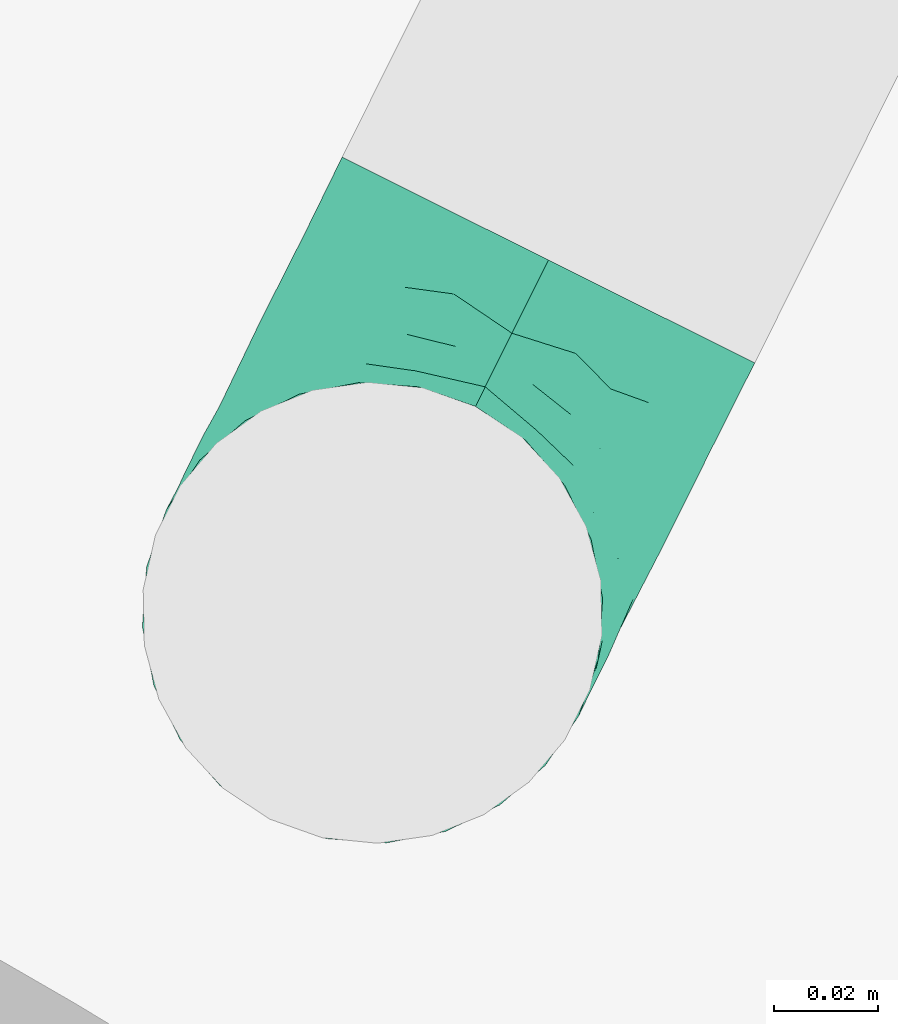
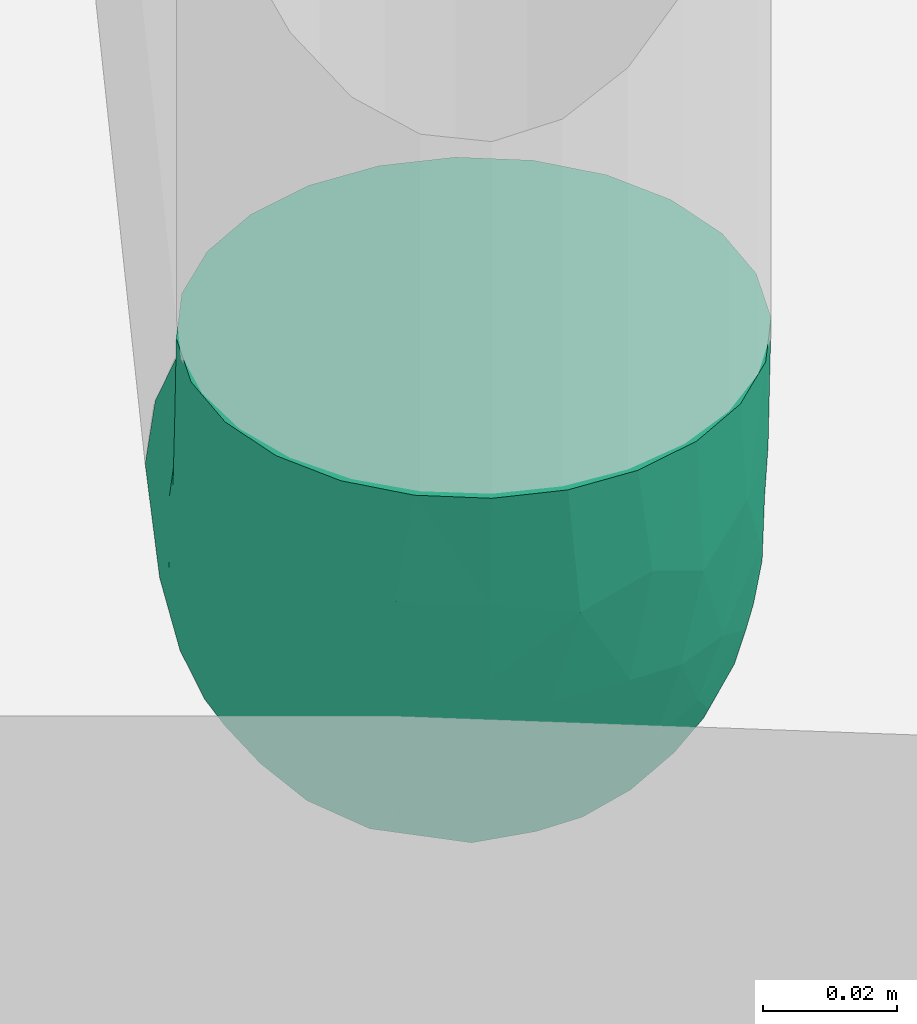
# One storey, part 25 of 47: 1 flow fitting.
"""IFC2X3 building model written with IfcOpenShell, lengths in metres."""

from ifc_helpers import new_model, entity, si_unit, converted_unit, derived_unit, direction, frame, origin, place, context, subcontext, project, spatial, faceted_brep, source, transform, mapped, type_object, type_shapes, element, save


model = new_model("IFC2X3")

# Units and contexts
model_context = context("Model", 3, precision=1e-05, world=origin(), true_north=direction((0.894925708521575, 0.446215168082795)))
context_of_model = context(None, 3, precision=1e-05, world=origin(), true_north=direction((0.894925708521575, 0.446215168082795)))
body_context = subcontext(model_context, "Body", "Model", "MODEL_VIEW")
ifc_project = project(units=[si_unit("LENGTHUNIT", "METRE"), si_unit("AREAUNIT", "SQUARE_METRE"), si_unit("VOLUMEUNIT", "CUBIC_METRE"), converted_unit("PLANEANGLEUNIT", "DEGREE", entity("IfcRatioMeasure", 0.0174532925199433), si_unit("PLANEANGLEUNIT", "RADIAN"), dimensions=[0, 0, 0, 0, 0, 0, 0]), si_unit("MASSUNIT", "GRAM", prefix="KILO"), si_unit("TIMEUNIT", "SECOND"), si_unit("FREQUENCYUNIT", "HERTZ"), si_unit("THERMODYNAMICTEMPERATUREUNIT", "DEGREE_CELSIUS"), derived_unit("THERMALTRANSMITTANCEUNIT", [(si_unit("MASSUNIT", "GRAM", prefix="KILO"), 1), (si_unit("THERMODYNAMICTEMPERATUREUNIT", "KELVIN"), -1), (si_unit("TIMEUNIT", "SECOND"), -3)]), derived_unit("VOLUMETRICFLOWRATEUNIT", [(si_unit("LENGTHUNIT", "METRE"), 3), (si_unit("TIMEUNIT", "SECOND"), -1)]), si_unit("ELECTRICCURRENTUNIT", "AMPERE"), si_unit("ELECTRICVOLTAGEUNIT", "VOLT"), si_unit("POWERUNIT", "WATT"), si_unit("FORCEUNIT", "NEWTON", prefix="KILO"), si_unit("ILLUMINANCEUNIT", "LUX"), si_unit("LUMINOUSFLUXUNIT", "LUMEN"), si_unit("LUMINOUSINTENSITYUNIT", "CANDELA"), si_unit("PRESSUREUNIT", "PASCAL")], contexts=[model_context, context_of_model])

# Site, building, storey
site_placement = place(None, frame((218.228324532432, 584.720189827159, 0.0), z_axis=(0.0, 0.0, 1.0), x_axis=(0.446215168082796, 0.894925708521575, 0.0)))
site = spatial("IfcSite", under=ifc_project, at=site_placement, Name="Default", CompositionType="ELEMENT")
building_placement = place(site_placement, origin())
building = spatial("IfcBuilding", under=site, at=building_placement, CompositionType="ELEMENT")
storey_placement = place(building_placement, frame((0.0, 0.0, 4.69)))
storey = spatial("IfcBuildingStorey", under=building, at=storey_placement, Name="1 - Piano Primo", CompositionType="ELEMENT", Elevation=4.69)

# Flow fitting
pipe_fitting_type = type_object("IfcPipeFittingType", Name="Standard", PredefinedType="NOTDEFINED")
shared_shape = source(origin(), body_context, "Body", "Brep", [
    faceted_brep([(-0.0759999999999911, 0.0222249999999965, -0.0384948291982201), (-0.0759999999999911, 0.0115045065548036, -0.0429354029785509), (-0.0759999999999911, 0.0, -0.0444500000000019), (-0.0759999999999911, -0.0115045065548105, -0.042935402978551), (-0.075999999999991, -0.0222250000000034, -0.0384948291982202), (-0.075999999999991, -0.0314308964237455, -0.031430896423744), (-0.075999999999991, -0.0384948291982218, -0.022225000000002), (-0.075999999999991, -0.0429354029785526, -0.011504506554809), (-0.075999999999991, -0.0444500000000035, 0.0), (-0.075999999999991, -0.0429354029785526, 0.011504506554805), (-0.075999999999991, -0.0384948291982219, 0.022224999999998), (-0.075999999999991, -0.0314308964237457, 0.0314308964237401), (-0.075999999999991, -0.0222250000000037, 0.0384948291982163), (-0.0759999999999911, -0.0115045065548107, 0.0429354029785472), (-0.0759999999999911, 0.0, 0.0444499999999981), (-0.0759999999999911, 0.0115045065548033, 0.0429354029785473), (-0.0759999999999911, 0.0222249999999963, 0.0384948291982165), (-0.0759999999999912, 0.0314308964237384, 0.0314308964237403), (-0.0759999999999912, 0.0384948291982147, 0.0222249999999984), (-0.0759999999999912, 0.0429354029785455, 0.0115045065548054), (-0.0759999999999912, 0.0444499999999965, 0.0), (-0.0759999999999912, 0.0429354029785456, -0.0115045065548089), (-0.0759999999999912, 0.0384948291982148, -0.0222250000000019), (-0.0759999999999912, 0.0314308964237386, -0.0314308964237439), (0.0, 0.0759999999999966, -0.0444500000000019), (-0.0115045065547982, 0.0759999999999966, -0.0429354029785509), (-0.0222249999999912, 0.0759999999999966, -0.0384948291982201), (-0.0314308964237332, 0.0759999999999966, -0.0314308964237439), (-0.0384948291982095, 0.0759999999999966, -0.0222250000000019), (-0.0429354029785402, 0.0759999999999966, -0.0115045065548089), (-0.0444499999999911, 0.0759999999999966, 0.0), (-0.0429354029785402, 0.0759999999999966, 0.0115045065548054), (-0.0384948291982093, 0.0759999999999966, 0.0222249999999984), (-0.031430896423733, 0.0759999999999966, 0.0314308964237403), (-0.0222249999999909, 0.0759999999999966, 0.0384948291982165), (-0.011504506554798, 0.0759999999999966, 0.0429354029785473), (0.0, 0.0759999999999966, 0.0444499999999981), (0.0115045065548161, 0.0759999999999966, 0.0429354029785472), (0.022225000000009, 0.0759999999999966, 0.0384948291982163), (0.031430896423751, 0.0759999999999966, 0.0314308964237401), (0.0384948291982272, 0.0759999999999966, 0.022224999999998), (0.042935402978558, 0.0759999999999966, 0.011504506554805), (0.0444500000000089, 0.0759999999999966, 0.0), (0.0429354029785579, 0.0759999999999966, -0.011504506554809), (0.0384948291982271, 0.0759999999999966, -0.022225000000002), (0.0314308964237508, 0.0759999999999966, -0.031430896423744), (0.0222250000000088, 0.0759999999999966, -0.0384948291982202), (0.0115045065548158, 0.0759999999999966, -0.042935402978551), (-0.055251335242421, -0.0350999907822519, 0.0246019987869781), (-0.0387789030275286, -0.0385547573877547, 0.0), (-0.0513960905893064, -0.0397481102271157, 0.0135506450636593), (-0.0541387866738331, -0.0409875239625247, 0.0), (0.0164280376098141, 0.018681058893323, 0.0300447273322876), (0.0133440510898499, 0.00595972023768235, 0.0238254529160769), (0.0227502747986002, 0.0181678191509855, 0.0223222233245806), (-0.0566160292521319, 0.00529376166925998, 0.0443688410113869), (-0.0518504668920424, 0.0178853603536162, 0.0424858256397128), (-0.0658426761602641, 0.0162370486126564, 0.0417044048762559), (0.00670599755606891, 0.0058076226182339, 0.0303487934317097), (0.00217280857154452, -0.00488037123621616, 0.0253915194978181), (0.0217662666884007, 0.0334721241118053, 0.0322256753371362), (0.0133779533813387, 0.0277507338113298, 0.0363591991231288), (-0.0489098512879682, -0.0265635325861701, 0.0327252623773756), (-0.0551815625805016, -0.0175181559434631, 0.0397928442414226), (-0.0321967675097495, -0.0350744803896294, 0.0096061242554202), (-0.0219900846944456, -0.0300004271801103, 0.0), (-0.0380359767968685, 0.0129504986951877, 0.0443849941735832), (-0.0499161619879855, 0.0304962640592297, 0.0376985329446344), (-0.0641975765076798, 0.0266916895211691, 0.0365481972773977), (-0.0267918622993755, 0.0407735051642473, 0.0416664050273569), (-0.0178853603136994, 0.0518504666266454, 0.0424858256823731), (-0.0304962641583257, 0.0499161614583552, 0.0376985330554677), (-0.0162370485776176, 0.0658426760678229, 0.0417044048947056), (-0.00529376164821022, 0.0566160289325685, 0.0443688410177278), (-0.060002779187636, 0.0363683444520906, 0.0294868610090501), (-0.0571942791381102, -0.00652591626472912, 0.0436019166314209), (-0.0131742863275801, -0.0091104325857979, 0.0329931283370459), (-0.0104548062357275, -0.0146502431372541, 0.0262592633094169), (-0.0363683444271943, 0.060002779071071, 0.0294868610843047), (-0.0266916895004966, 0.0641975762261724, 0.036548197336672), (-0.0591167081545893, 0.0427163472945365, 0.0219026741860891), (-0.0130572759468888, 0.0374829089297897, 0.0443951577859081), (-0.0283996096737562, 0.02839960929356, 0.0435936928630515), (-0.0206947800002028, 0.0157137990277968, 0.0440684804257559), (-0.0622162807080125, 0.0455810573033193, 0.0126773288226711), (-0.0512634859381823, 0.0512634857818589, 0.0171284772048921), (-0.0440264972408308, 0.0440264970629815, 0.032066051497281), (-0.0427163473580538, 0.0591167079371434, 0.0219026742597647), (-0.0484175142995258, 0.0479614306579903, 0.0251239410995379), (0.0175181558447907, 0.0551815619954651, 0.0397928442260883), (0.0265635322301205, 0.0489098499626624, 0.0327252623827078), (-0.0531667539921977, 0.0531667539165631, 0.00808290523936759), (0.0397481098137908, 0.0513960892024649, 0.0135506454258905), (0.0350999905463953, 0.0552513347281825, 0.0246019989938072), (0.0300990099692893, 0.0319822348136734, 0.0215664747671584), (0.00652591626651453, 0.0571942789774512, 0.0436019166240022), (-0.0360375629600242, -0.00228367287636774, 0.0428291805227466), (0.0409875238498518, 0.0541387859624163, 0.0), (-0.00769711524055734, 0.023069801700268, 0.0432135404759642), (-0.0161281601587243, 0.00441100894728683, 0.0409345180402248), (-0.000438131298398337, 0.0181073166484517, 0.0400941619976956), (0.0300004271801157, 0.0219900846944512, 0.0), (0.0350744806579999, 0.0321967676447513, 0.00960612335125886), (0.0263186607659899, 0.0155052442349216, 0.0117666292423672), (-0.0291179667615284, -0.0225220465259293, 0.0296592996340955), (-0.0277507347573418, -0.0133779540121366, 0.0363591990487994), (-0.0602249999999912, 0.0486768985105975, 0.0), (-0.0486768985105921, 0.0602249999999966, 0.0), (-0.0455810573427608, 0.0622162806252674, 0.0126773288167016), (-0.0407466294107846, 0.0268307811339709, 0.0416604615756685), (-0.0377601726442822, 0.0377601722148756, 0.0386689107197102), (-0.00520126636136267, -0.0214460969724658, 0.0), (-0.0155052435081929, -0.0263186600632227, 0.0117666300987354), (-0.0319822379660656, -0.0300990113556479, 0.0215664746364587), (0.00228367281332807, 0.0360375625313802, 0.0428291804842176), (0.0214460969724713, 0.00520126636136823, 0.0), (0.0160594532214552, -0.000115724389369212, 0.00937076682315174), (0.00329314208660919, -0.0118779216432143, 0.0134585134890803), (0.0186652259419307, 0.00689538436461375, 0.0166724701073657), (0.0385547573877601, 0.0387789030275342, 0.0), (-0.00882562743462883, -0.0191172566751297, 0.0184368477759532), (0.00812241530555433, -0.00812241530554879, 0.0), (-0.00308956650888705, 0.00308956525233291, 0.0352249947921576), (0.00665750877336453, 0.014449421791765, 0.0352664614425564), (-0.0663119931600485, 0.0352211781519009, -0.0285295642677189), (0.0356416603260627, 0.063567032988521, -0.0256086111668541), (-0.0597195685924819, 0.00503106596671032, -0.0443355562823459), (-0.0428757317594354, 0.0435409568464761, -0.0331401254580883), (-0.0472933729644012, 0.0477547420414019, -0.0264450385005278), (-0.0380854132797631, 0.0547099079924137, -0.0303060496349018), (-0.0408534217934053, 0.00868227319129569, -0.0444499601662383), (-0.0550040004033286, 0.0172386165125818, -0.0423182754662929), (-0.0619986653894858, 0.0454344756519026, -0.0134059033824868), (-0.0424796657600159, 0.058945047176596, -0.0224049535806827), (-0.0530961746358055, 0.0530961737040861, -0.008605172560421), (-0.005031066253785, 0.0597195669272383, -0.0443355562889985), (-0.0172386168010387, 0.0550039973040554, -0.0423182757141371), (-0.0453499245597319, 0.0261375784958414, -0.0408727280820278), (-0.0597445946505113, 0.0272482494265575, -0.0370157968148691), (-0.0484821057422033, 0.0337753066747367, -0.0363378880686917), (-0.0108421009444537, 0.0108420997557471, -0.0414134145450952), (0.00292359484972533, 0.0313950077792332, -0.0419642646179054), (0.00576470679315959, 0.015577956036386, -0.036290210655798), (-0.0239048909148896, 0.00889487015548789, -0.0435390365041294), (-0.0280822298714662, 0.0165780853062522, -0.0444487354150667), (-0.0155353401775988, 0.0222215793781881, -0.0441768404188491), (-0.0548671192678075, -0.0402641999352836, -0.0140556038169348), (-0.0635670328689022, -0.035641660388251, -0.0256086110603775), (-0.0468237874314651, -0.0338951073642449, -0.0235445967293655), (-0.0542773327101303, -0.0272310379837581, -0.0332571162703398), (-0.0295224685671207, -0.0279582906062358, -0.0232657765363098), (0.0206432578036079, 0.026645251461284, -0.0303065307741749), (0.0272310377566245, 0.0542773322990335, -0.0332571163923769), (0.0338951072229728, 0.0468237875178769, -0.0235445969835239), (-0.063773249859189, -0.0178670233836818, -0.0403436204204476), (-0.0454344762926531, 0.0619986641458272, -0.0134059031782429), (-0.0509858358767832, 0.0509858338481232, -0.018040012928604), (-0.0266452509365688, -0.0206432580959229, -0.0303065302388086), (0.0402641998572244, 0.0548671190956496, -0.0140556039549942), (0.033135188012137, 0.0290265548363, -0.0119449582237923), (-0.0471571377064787, -0.0164855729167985, -0.0392413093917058), (-0.0554032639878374, -0.00637620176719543, -0.0435474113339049), (-0.031395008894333, -0.00292359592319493, -0.0419642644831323), (-0.0589796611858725, 0.0424071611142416, -0.0224886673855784), (-0.0283863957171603, -0.0127648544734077, -0.0369364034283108), (-0.0110970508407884, -0.00438905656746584, -0.0350639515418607), (-0.0353996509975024, -0.0349521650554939, -0.0141213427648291), (-0.0539297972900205, 0.0384008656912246, -0.0304288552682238), (-0.0272482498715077, 0.0597445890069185, -0.0370157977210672), (0.0063762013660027, 0.0554032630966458, -0.0435474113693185), (0.0178670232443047, 0.0637732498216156, -0.0403436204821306), (-0.0130026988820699, -0.0185218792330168, -0.0237207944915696), (0.00307688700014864, -0.0126882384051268, -0.0119183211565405), (-0.0178636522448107, -0.0261829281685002, -0.0157567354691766), (0.01648557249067, 0.0471571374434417, -0.0392413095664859), (-0.0351708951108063, 0.0668051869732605, -0.0284550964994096), (-0.0143062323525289, -0.0267882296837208, -0.00708720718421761), (-0.0367961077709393, 0.036796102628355, -0.0394106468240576), (-0.0263944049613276, 0.0276845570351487, -0.0439339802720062), (0.0115291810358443, 0.0308300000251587, -0.0383364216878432), (0.0277415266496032, 0.0267890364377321, -0.0216489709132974), (-0.00868227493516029, 0.040853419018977, -0.0444499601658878), (-0.0263216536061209, 0.0459443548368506, -0.0406700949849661), (-0.0192830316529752, 0.0407360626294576, -0.0434845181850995), (-0.0337233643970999, 0.049471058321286, -0.0359883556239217), (-0.0405538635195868, 0.018597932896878, -0.0436227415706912), (0.00798111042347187, 0.00716693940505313, -0.0302321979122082), (0.0176308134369, 0.0122534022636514, -0.0242211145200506), (0.00408183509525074, -0.00408183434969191, -0.0242493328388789), (0.0197800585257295, 0.00739832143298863, -0.0150810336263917)], [[[0, 1, 2, 3, 4, 5, 6, 7, 8, 9, 10, 11, 12, 13, 14, 15, 16, 17, 18, 19, 20, 21, 22, 23]], [[24, 25, 26, 27, 28, 29, 30, 31, 32, 33, 34, 35, 36, 37, 38, 39, 40, 41, 42, 43, 44, 45, 46, 47]], [[10, 48, 11]], [[49, 50, 51]], [[52, 53, 54]], [[9, 50, 10]], [[9, 51, 50]], [[55, 56, 57]], [[48, 10, 50]], [[58, 59, 53]], [[60, 61, 52]], [[62, 12, 11]], [[62, 63, 12]], [[64, 49, 65]], [[56, 55, 66]], [[56, 67, 68]], [[69, 70, 71]], [[16, 15, 57]], [[35, 72, 73]], [[74, 18, 17]], [[75, 14, 13]], [[76, 77, 59]], [[78, 71, 79]], [[74, 80, 18]], [[81, 82, 83]], [[20, 19, 84]], [[85, 84, 80]], [[70, 81, 73]], [[86, 74, 67]], [[87, 88, 78]], [[38, 89, 90]], [[85, 91, 84]], [[92, 93, 94]], [[17, 16, 68]], [[93, 40, 39]], [[36, 95, 37]], [[96, 66, 55]], [[36, 35, 73]], [[90, 39, 38]], [[92, 97, 41]], [[98, 99, 100]], [[93, 92, 40]], [[31, 87, 32]], [[92, 41, 40]], [[71, 78, 86]], [[101, 102, 103]], [[104, 105, 62]], [[106, 91, 107]], [[96, 63, 105]], [[107, 108, 30]], [[109, 69, 110]], [[107, 91, 108]], [[111, 112, 65]], [[32, 78, 33]], [[89, 38, 37]], [[31, 108, 87]], [[89, 61, 60]], [[79, 34, 33]], [[72, 35, 34]], [[12, 63, 13]], [[113, 62, 48]], [[103, 102, 94]], [[80, 88, 85]], [[15, 14, 55]], [[70, 69, 81]], [[95, 73, 114]], [[75, 55, 14]], [[96, 83, 66]], [[105, 63, 62]], [[75, 63, 96]], [[104, 62, 113]], [[105, 76, 99]], [[95, 89, 37]], [[61, 89, 114]], [[100, 61, 114]], [[58, 53, 52]], [[86, 67, 110]], [[70, 72, 79]], [[74, 17, 68]], [[109, 82, 69]], [[113, 48, 50]], [[62, 11, 48]], [[39, 90, 93]], [[94, 93, 90]], [[64, 113, 50]], [[115, 103, 116]], [[53, 59, 117]], [[53, 118, 54]], [[73, 95, 36]], [[89, 95, 114]], [[63, 75, 13]], [[55, 75, 96]], [[106, 20, 84]], [[108, 91, 85]], [[106, 84, 91]], [[80, 19, 18]], [[80, 84, 19]], [[88, 74, 86]], [[108, 85, 87]], [[108, 31, 30]], [[87, 85, 88]], [[32, 87, 78]], [[82, 109, 66]], [[114, 73, 81]], [[99, 83, 96]], [[81, 83, 98]], [[9, 8, 51]], [[97, 92, 119]], [[97, 42, 41]], [[82, 66, 83]], [[120, 113, 112]], [[117, 121, 116]], [[74, 88, 80]], [[88, 86, 78]], [[65, 112, 64]], [[111, 117, 112]], [[120, 112, 117]], [[101, 103, 115]], [[92, 102, 119]], [[118, 117, 116]], [[113, 64, 112]], [[49, 64, 50]], [[119, 102, 101]], [[94, 102, 92]], [[105, 99, 96]], [[100, 99, 122]], [[100, 122, 123]], [[98, 100, 114]], [[78, 79, 33]], [[70, 79, 71]], [[68, 16, 57]], [[74, 68, 67]], [[81, 98, 114]], [[99, 98, 83]], [[118, 116, 103]], [[54, 103, 94]], [[121, 117, 111]], [[121, 115, 116]], [[117, 118, 53]], [[103, 54, 118]], [[90, 60, 94]], [[54, 94, 60]], [[58, 123, 122]], [[123, 52, 61]], [[76, 59, 58]], [[76, 58, 122]], [[59, 77, 120]], [[52, 123, 58]], [[100, 123, 61]], [[60, 52, 54]], [[89, 60, 90]], [[79, 72, 34]], [[73, 72, 70]], [[55, 57, 15]], [[68, 57, 56]], [[113, 77, 104]], [[76, 104, 77]], [[110, 69, 71]], [[81, 69, 82]], [[86, 110, 71]], [[110, 67, 109]], [[67, 56, 109]], [[66, 109, 56]], [[99, 76, 122]], [[104, 76, 105]], [[59, 120, 117]], [[113, 120, 77]], [[22, 124, 23]], [[45, 44, 125]], [[1, 126, 2]], [[127, 128, 129]], [[130, 126, 131]], [[131, 1, 0]], [[106, 132, 20]], [[129, 128, 133]], [[132, 106, 134]], [[25, 135, 136]], [[137, 138, 139]], [[140, 141, 142]], [[143, 144, 145]], [[138, 131, 0]], [[146, 6, 147]], [[148, 149, 150]], [[146, 51, 7]], [[151, 152, 153]], [[149, 5, 4]], [[0, 23, 138]], [[154, 149, 4]], [[155, 133, 156]], [[6, 146, 7]], [[147, 6, 5]], [[150, 149, 157]], [[154, 4, 3]], [[158, 44, 43]], [[153, 158, 159]], [[106, 107, 134]], [[125, 152, 45]], [[30, 29, 155]], [[160, 161, 162]], [[132, 163, 21]], [[164, 162, 165]], [[146, 148, 166]], [[128, 127, 167]], [[168, 27, 26]], [[46, 45, 152]], [[169, 47, 170]], [[171, 172, 173]], [[152, 174, 170]], [[24, 135, 25]], [[28, 27, 175]], [[47, 46, 170]], [[176, 172, 111]], [[137, 177, 178]], [[142, 141, 179]], [[153, 159, 180]], [[141, 181, 169]], [[161, 160, 154]], [[153, 125, 158]], [[47, 169, 24]], [[158, 97, 119]], [[26, 136, 168]], [[161, 3, 2]], [[151, 174, 152]], [[156, 163, 132]], [[25, 136, 26]], [[182, 183, 178]], [[134, 155, 156]], [[127, 129, 184]], [[131, 137, 185]], [[141, 169, 174]], [[135, 169, 181]], [[179, 151, 142]], [[141, 140, 145]], [[158, 43, 97]], [[159, 158, 119]], [[115, 159, 119, 101]], [[157, 149, 160]], [[147, 149, 148]], [[126, 161, 2]], [[145, 140, 143]], [[130, 162, 161]], [[162, 140, 165]], [[150, 171, 173]], [[65, 176, 111]], [[142, 165, 140]], [[153, 180, 151]], [[148, 150, 166]], [[43, 42, 97]], [[107, 30, 155]], [[132, 134, 156]], [[124, 138, 23]], [[167, 127, 139]], [[184, 182, 177]], [[175, 168, 129]], [[186, 151, 187]], [[188, 171, 165]], [[165, 142, 186]], [[165, 157, 164]], [[107, 155, 134]], [[133, 29, 28]], [[29, 133, 155]], [[175, 133, 28]], [[128, 163, 156]], [[132, 21, 20]], [[124, 163, 167]], [[21, 163, 22]], [[163, 128, 167]], [[156, 133, 128]], [[51, 146, 49]], [[51, 8, 7]], [[184, 129, 168]], [[167, 139, 138]], [[127, 177, 139]], [[137, 139, 177]], [[178, 177, 182]], [[138, 137, 131]], [[145, 178, 181]], [[131, 185, 130]], [[137, 178, 185]], [[144, 185, 178]], [[182, 168, 136]], [[177, 127, 184]], [[168, 182, 184]], [[182, 136, 183]], [[136, 181, 183]], [[181, 178, 183]], [[131, 126, 1]], [[161, 126, 130]], [[169, 135, 24]], [[136, 135, 181]], [[176, 166, 173]], [[49, 146, 166]], [[189, 172, 188]], [[49, 166, 65]], [[189, 121, 172]], [[180, 187, 151]], [[189, 159, 115]], [[141, 145, 181]], [[140, 162, 143]], [[166, 176, 65]], [[172, 176, 173]], [[162, 130, 143]], [[144, 143, 130]], [[185, 144, 130]], [[178, 145, 144]], [[163, 124, 22]], [[138, 124, 167]], [[152, 170, 46]], [[169, 170, 174]], [[158, 125, 44]], [[152, 125, 153]], [[161, 154, 3]], [[149, 154, 160]], [[149, 147, 5]], [[146, 147, 148]], [[168, 175, 27]], [[133, 175, 129]], [[159, 189, 180]], [[187, 180, 189]], [[189, 188, 187]], [[186, 187, 188]], [[165, 186, 188]], [[151, 186, 142]], [[171, 150, 157]], [[166, 150, 173]], [[165, 171, 157]], [[172, 171, 188]], [[141, 174, 179]], [[151, 179, 174]], [[157, 160, 164]], [[162, 164, 160]], [[121, 189, 115]], [[121, 111, 172]]]),
])
type_shapes(pipe_fitting_type, [shared_shape])
flow_fitting_placement = place(storey_placement, frame((-68.5322266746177, -4.42607899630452, 2.96000000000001), z_axis=(0.0, -1.0, 0.0), x_axis=(0.0, 0.0, -1.0)))
element("IfcFlowFitting", 1, at=flow_fitting_placement, inside=storey, type_object=pipe_fitting_type, Name="M_Gomito - Saldato - Generico:Standard", ObjectType="Standard", context=body_context, shape_type="MappedRepresentation", body=[
    mapped(shared_shape, transform((0.0, 0.0, 0.0), scale=1.0)),
])

save(model, "model.ifc")
